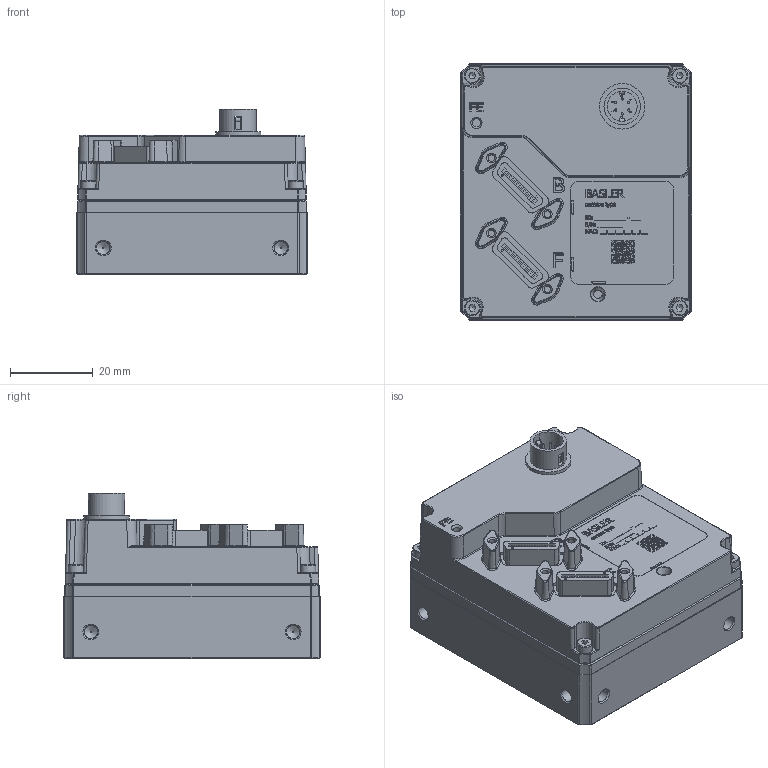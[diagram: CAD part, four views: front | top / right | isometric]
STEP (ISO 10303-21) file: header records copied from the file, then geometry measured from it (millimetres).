
FILE_DESCRIPTION(/* description */ (''),/* implementation_level */ '2;1');
FILE_NAME(/* name */ 'C:\Users\jobserver\Workspace\Designs\Storage\2012\09\018838.stp',/* time_stamp */ '2024-09-13T14:14:49+02:00',/* author */ ('froselle'),/* organization */ (''),/* preprocessor_version */ 'ST-DEVELOPER v18.1',/* originating_system */ 'Autodesk Inventor 2022',/* authorisation */ '0 mm^3');
FILE_SCHEMA (('CONFIG_CONTROL_DESIGN'));
Products named in the file (1): 018838
Bounding box: 56 x 62 x 40.1 mm (x, y, z)
Volume: 92734.4 mm3; surface area: 17874.9 mm2
Topology: 3 solids, 27 shells, 1858 faces, 5085 edges, 3312 vertices
Faces by surface type: plane 1073, cylinder 384, bspline 170, cone 163, torus 54, sphere 14
Full cylindrical faces by diameter (mm): 0.5 x2, 0.55 x6, 1.567 x4, 2 x4, 2.013 x5, 2.1 x1, 3.242 x12, 3.8 x4, 8.85 x1, 11 x1, 46.7 x1, 47 x1
Entity records: 64748 total; most frequent: CARTESIAN_POINT 16544, ORIENTED_EDGE 10120, DIRECTION 8825, EDGE_CURVE 5060, VERTEX_POINT 3315, LINE 3265, VECTOR 3265, AXIS2_PLACEMENT_3D 2780
